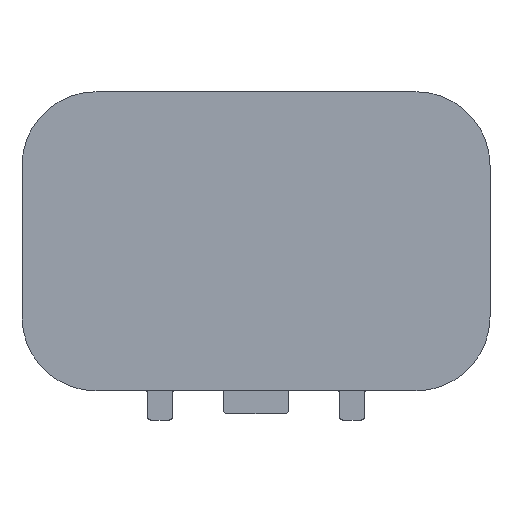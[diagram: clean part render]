
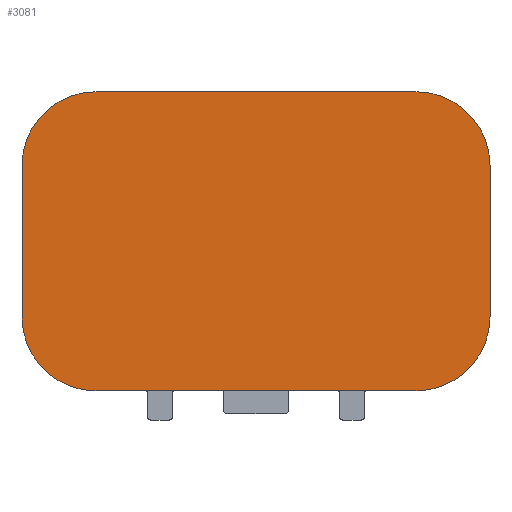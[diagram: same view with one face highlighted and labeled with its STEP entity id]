
A CAD part, front view. The second image highlights one B-rep face of the part: STEP entity #3081.
In plain terms, the highlighted planar face has unit normal (0, -1, 0).
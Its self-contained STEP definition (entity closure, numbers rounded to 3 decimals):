
#3010=CARTESIAN_POINT('Axis2P3D Location',(0.,-1.5,0.)) ;
#3015=CARTESIAN_POINT('Axis2P3D Location',(-9.,-1.5,4.25)) ;
#3019=CARTESIAN_POINT('Vertex',(-9.,-1.5,8.416)) ;
#3021=CARTESIAN_POINT('Vertex',(-13.166,-1.5,4.25)) ;
#3024=CARTESIAN_POINT('Line Origine',(-13.166,-1.5,0.)) ;
#3028=CARTESIAN_POINT('Vertex',(-13.166,-1.5,-4.25)) ;
#3031=CARTESIAN_POINT('Axis2P3D Location',(-9.,-1.5,-4.25)) ;
#3035=CARTESIAN_POINT('Vertex',(-9.,-1.5,-8.416)) ;
#3038=CARTESIAN_POINT('Line Origine',(0.,-1.5,-8.416)) ;
#3042=CARTESIAN_POINT('Vertex',(9.,-1.5,-8.416)) ;
#3045=CARTESIAN_POINT('Axis2P3D Location',(9.,-1.5,-4.25)) ;
#3049=CARTESIAN_POINT('Vertex',(13.166,-1.5,-4.25)) ;
#3052=CARTESIAN_POINT('Line Origine',(13.166,-1.5,0.)) ;
#3056=CARTESIAN_POINT('Vertex',(13.166,-1.5,4.25)) ;
#3059=CARTESIAN_POINT('Axis2P3D Location',(9.,-1.5,4.25)) ;
#3063=CARTESIAN_POINT('Vertex',(9.,-1.5,8.416)) ;
#3066=CARTESIAN_POINT('Line Origine',(0.,-1.5,8.416)) ;
#3026=VECTOR('Line Direction',#3025,1.) ;
#3040=VECTOR('Line Direction',#3039,1.) ;
#3054=VECTOR('Line Direction',#3053,1.) ;
#3068=VECTOR('Line Direction',#3067,1.) ;
#3011=DIRECTION('Axis2P3D Direction',(0.,1.,0.)) ;
#3012=DIRECTION('Axis2P3D XDirection',(0.,0.,1.)) ;
#3016=DIRECTION('Axis2P3D Direction',(0.,1.,0.)) ;
#3025=DIRECTION('Vector Direction',(0.,0.,1.)) ;
#3032=DIRECTION('Axis2P3D Direction',(0.,1.,0.)) ;
#3039=DIRECTION('Vector Direction',(1.,0.,0.)) ;
#3046=DIRECTION('Axis2P3D Direction',(0.,1.,0.)) ;
#3053=DIRECTION('Vector Direction',(0.,0.,1.)) ;
#3060=DIRECTION('Axis2P3D Direction',(0.,1.,0.)) ;
#3067=DIRECTION('Vector Direction',(-1.,0.,0.)) ;
#3013=AXIS2_PLACEMENT_3D('Plane Axis2P3D',#3010,#3011,#3012) ;
#3017=AXIS2_PLACEMENT_3D('Circle Axis2P3D',#3015,#3016,$) ;
#3033=AXIS2_PLACEMENT_3D('Circle Axis2P3D',#3031,#3032,$) ;
#3047=AXIS2_PLACEMENT_3D('Circle Axis2P3D',#3045,#3046,$) ;
#3061=AXIS2_PLACEMENT_3D('Circle Axis2P3D',#3059,#3060,$) ;
#3027=LINE('Line',#3024,#3026) ;
#3041=LINE('Line',#3038,#3040) ;
#3055=LINE('Line',#3052,#3054) ;
#3069=LINE('Line',#3066,#3068) ;
#3018=CIRCLE('generated circle',#3017,4.166) ;
#3034=CIRCLE('generated circle',#3033,4.166) ;
#3048=CIRCLE('generated circle',#3047,4.166) ;
#3062=CIRCLE('generated circle',#3061,4.166) ;
#3014=PLANE('',#3013) ;
#3023=EDGE_CURVE('',#3020,#3022,#3018,.F.) ;
#3030=EDGE_CURVE('',#3022,#3029,#3027,.F.) ;
#3037=EDGE_CURVE('',#3029,#3036,#3034,.F.) ;
#3044=EDGE_CURVE('',#3036,#3043,#3041,.T.) ;
#3051=EDGE_CURVE('',#3043,#3050,#3048,.F.) ;
#3058=EDGE_CURVE('',#3050,#3057,#3055,.T.) ;
#3065=EDGE_CURVE('',#3057,#3064,#3062,.F.) ;
#3070=EDGE_CURVE('',#3064,#3020,#3069,.T.) ;
#3072=ORIENTED_EDGE('',*,*,#3023,.T.) ;
#3073=ORIENTED_EDGE('',*,*,#3030,.T.) ;
#3074=ORIENTED_EDGE('',*,*,#3037,.T.) ;
#3075=ORIENTED_EDGE('',*,*,#3044,.T.) ;
#3076=ORIENTED_EDGE('',*,*,#3051,.T.) ;
#3077=ORIENTED_EDGE('',*,*,#3058,.T.) ;
#3078=ORIENTED_EDGE('',*,*,#3065,.T.) ;
#3079=ORIENTED_EDGE('',*,*,#3070,.T.) ;
#3071=EDGE_LOOP('',(#3072,#3073,#3074,#3075,#3076,#3077,#3078,#3079)) ;
#3020=VERTEX_POINT('',#3019) ;
#3022=VERTEX_POINT('',#3021) ;
#3029=VERTEX_POINT('',#3028) ;
#3036=VERTEX_POINT('',#3035) ;
#3043=VERTEX_POINT('',#3042) ;
#3050=VERTEX_POINT('',#3049) ;
#3057=VERTEX_POINT('',#3056) ;
#3064=VERTEX_POINT('',#3063) ;
#3081=ADVANCED_FACE('4P HP INTEFACE - KEY A',(#3080),#3014,.F.) ;
#3080=FACE_OUTER_BOUND('',#3071,.T.) ;
